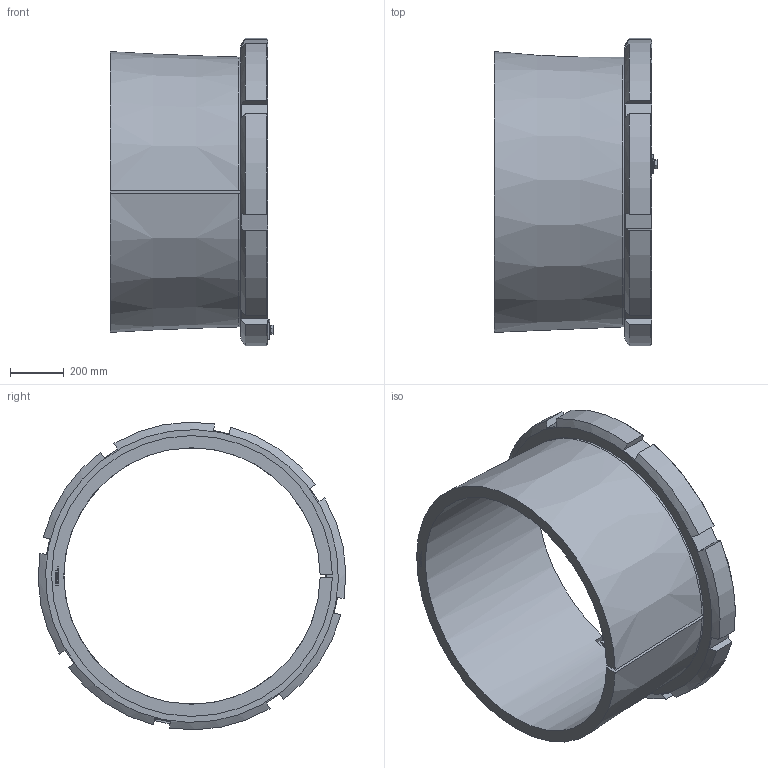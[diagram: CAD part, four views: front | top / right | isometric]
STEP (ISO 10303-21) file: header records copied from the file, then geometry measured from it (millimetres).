
FILE_DESCRIPTION( ( 'STEP AP203' ), ' ' );
FILE_NAME( 'p:/temp/worker_15/2512_1996/app_90_02016102820433739507778192d056f_000000_00_00_000000/format_0/BGL H 31_1000TL+231_1000K.stp', '2016-10-28T18:43:42', ( '' ), ( '' ), ' ', 'PARTsolutions', ' ' );
FILE_SCHEMA( ( 'CONFIG_CONTROL_DESIGN' ) );
Length unit declared in the file: millimetre
Products named in the file (6): BGL H 31/1000TL+231/1000K; _BGLH31/1000TLB; _BGL HM 30/1000; _BGLH31/1000TL+H-Not Available; _BGL MS 30/1000part; _BGL MS 30/1000HHS
Assembly tree (5 placements, depth 2):
  BGL H 31/1000TL+231/1000K
    _BGLH31/1000TLB
    _BGL HM 30/1000
    _BGLH31/1000TL+H-Not Available
    _BGL MS 30/1000part
    _BGL MS 30/1000HHS
Bounding box: 606.92 x 1139.72 x 1139.72 mm (x, y, z)
Volume: 82380477.8 mm3; surface area: 4994416.5 mm2
Topology: 4 solids, 4 shells, 328 faces, 852 edges, 560 vertices
Faces by surface type: plane 224, cylinder 74, cone 30
Full cylindrical faces by diameter (mm): 20 x9, 22 x1, 33.6 x1, 992 x1
Entity records: 10222 total; most frequent: CARTESIAN_POINT 2028, ORIENTED_EDGE 1648, DIRECTION 1629, EDGE_CURVE 824, LINE 567, VECTOR 567, VERTEX_POINT 555, AXIS2_PLACEMENT_3D 531
